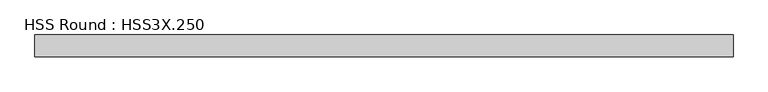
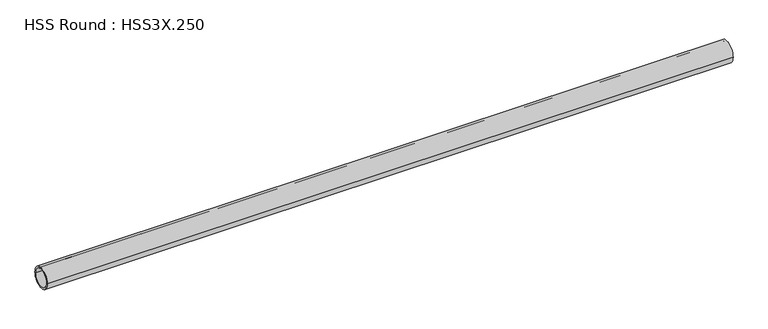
"""IFC4 building model written with IfcOpenShell, lengths in millimetres: member geometry, HSS Round : HSS3X.250."""

import ifcopenshell
import ifcopenshell.guid

model = None  # the IFC model being written
_history = None  # IfcOwnerHistory: only IFC2X3 demands one
_inside = {}  # id of a spatial element -> (the spatial element, [elements in it])
_under = {}  # id of a project, library or spatial element -> (it, [spatial elements below it])
_declared = {}  # id of a project -> (the project, [libraries it declares])
_typed = {}  # id of a type object -> (the type object, [elements of that type])
_made_of = {}  # id of a material, layer set ... -> (it, [elements and type objects made of it])


def new_model(schema):
    """Start an empty IFC model of exactly this schema.

    Asked for "IFC4X3", IfcOpenShell would pick the latest addendum, in which some entities
    have other attributes; the version numbers below select the first issue.
    IFC2X3 requires an IfcOwnerHistory on every rooted entity: one is made here for all.
    """
    global model, _history
    if schema == "IFC4X3":
        model = ifcopenshell.file(schema_version=(4, 3, 0, 0))
    else:
        model = ifcopenshell.file(schema=schema)
    _inside.clear()
    _under.clear()
    _declared.clear()
    _typed.clear()
    _made_of.clear()
    _history = None
    if model.schema == "IFC2X3":
        org = make("IfcOrganization", Name="unknown")
        user = make(
            "IfcPersonAndOrganization",
            ThePerson=make("IfcPerson", FamilyName="unknown"),
            TheOrganization=org,
        )
        app = make(
            "IfcApplication",
            ApplicationDeveloper=org,
            Version="unknown",
            ApplicationFullName="unknown",
            ApplicationIdentifier="unknown",
        )
        _history = make(
            "IfcOwnerHistory",
            OwningUser=user,
            OwningApplication=app,
            ChangeAction="ADDED",
            CreationDate=0,
        )
    return model


def make(cls, **values):
    """One entity of the class cls with the attributes given. An attribute that is None is left unset."""
    return model.create_entity(
        cls, **{name: value for name, value in values.items() if value is not None}
    )


def rooted(cls, **values):
    """An entity with a GlobalId (a new one), such as an element, a storey or a relation."""
    return make(cls, GlobalId=ifcopenshell.guid.new(), OwnerHistory=_history, **values)


def si_unit(unit_type, name, prefix=None):
    """IfcSIUnit, for example si_unit("LENGTHUNIT", "METRE", prefix="MILLI")."""
    return make("IfcSIUnit", UnitType=unit_type, Prefix=prefix, Name=name)


def assignment(units):
    """IfcUnitAssignment: the units of a project."""
    return None if units is None else make("IfcUnitAssignment", Units=units)


def point(xyz):
    """IfcCartesianPoint."""
    return None if xyz is None else make("IfcCartesianPoint", Coordinates=xyz)


def direction(xyz):
    """IfcDirection."""
    return None if xyz is None else make("IfcDirection", DirectionRatios=xyz)


def frame(location, z_axis=None, x_axis=None):
    """IfcAxis2Placement3D, a coordinate frame: its origin and axes. An axis left out is left unset."""
    return make(
        "IfcAxis2Placement3D",
        Location=point(location),
        Axis=direction(z_axis),
        RefDirection=direction(x_axis),
    )


def frame_2d(location, x_axis=None):
    """IfcAxis2Placement2D, a coordinate frame in the plane: its origin and x axis."""
    return make(
        "IfcAxis2Placement2D", Location=point(location), RefDirection=direction(x_axis)
    )


def origin():
    """The frame at (0, 0, 0) with its axes left unset."""
    return frame((0.0, 0.0, 0.0))


def origin_2d():
    """The frame at (0, 0) in the plane with its x axis left unset."""
    return frame_2d((0.0, 0.0))


def place(relative_to, where):
    """IfcLocalPlacement: puts the frame where relative to a parent placement (None: the world)."""
    return make(
        "IfcLocalPlacement", PlacementRelTo=relative_to, RelativePlacement=where
    )


def context(
    kind, dimensions, precision=None, world=None, true_north=None, identifier=None
):
    """IfcGeometricRepresentationContext, for example the 3D "Model" context."""
    return make(
        "IfcGeometricRepresentationContext",
        ContextIdentifier=identifier,
        ContextType=kind,
        CoordinateSpaceDimension=dimensions,
        Precision=precision,
        WorldCoordinateSystem=world,
        TrueNorth=true_north,
    )


def project(units=None, contexts=None):
    """IfcProject with its units and contexts."""
    return rooted(
        "IfcProject",
        Name="project",
        RepresentationContexts=contexts,
        UnitsInContext=assignment(units),
    )


def spatial(cls, under=None, at=None, **own):
    """A site, building, storey or space (cls), placed at a placement, below another one or the project."""
    s = rooted(cls, ObjectPlacement=at, **own)
    if under is not None:
        _under.setdefault(under.id(), (under, []))[1].append(s)
    return s


def circle_curve(where, radius):
    """IfcCircle in the frame where."""
    return make("IfcCircle", Position=where, Radius=radius)


def trimmed(basis, trim1, trim2, sense, master):
    """IfcTrimmedCurve: the piece of a basis curve between two trims."""
    return make(
        "IfcTrimmedCurve",
        BasisCurve=basis,
        Trim1=trim1,
        Trim2=trim2,
        SenseAgreement=sense,
        MasterRepresentation=master,
    )


def segment(curve, same_sense, transition):
    """IfcCompositeCurveSegment."""
    return make(
        "IfcCompositeCurveSegment",
        Transition=transition,
        SameSense=same_sense,
        ParentCurve=curve,
    )


def composite_curve(segments, self_intersect=None):
    """IfcCompositeCurve: segments joined end to end."""
    return make("IfcCompositeCurve", Segments=segments, SelfIntersect=self_intersect)


def outline(outer, holes=None, kind="AREA"):
    """IfcArbitraryClosedProfileDef: a profile drawn as a closed curve; with holes, ...WithVoids."""
    if holes is None:
        return make("IfcArbitraryClosedProfileDef", ProfileType=kind, OuterCurve=outer)
    return make(
        "IfcArbitraryProfileDefWithVoids",
        ProfileType=kind,
        OuterCurve=outer,
        InnerCurves=holes,
    )


def extrude(swept, where, along, depth):
    """IfcExtrudedAreaSolid: the profile swept, set in the frame where, extruded along a direction by depth."""
    return make(
        "IfcExtrudedAreaSolid",
        SweptArea=swept,
        Position=where,
        ExtrudedDirection=direction(along),
        Depth=depth,
    )


def shape(context_of_items, identifier, shape_type, items):
    """IfcShapeRepresentation: the items that make up one representation, for example the "Body"."""
    return make(
        "IfcShapeRepresentation",
        ContextOfItems=context_of_items,
        RepresentationIdentifier=identifier,
        RepresentationType=shape_type,
        Items=items,
    )


def source(mapping_origin, context_of_items, identifier, shape_type, items):
    """IfcRepresentationMap: a shape defined once, which mapped items show again and again."""
    return make(
        "IfcRepresentationMap",
        MappingOrigin=mapping_origin,
        MappedRepresentation=shape(context_of_items, identifier, shape_type, items),
    )


def transform(
    local_origin,
    x_axis=None,
    y_axis=None,
    z_axis=None,
    scale=None,
    scale2=None,
    scale3=None,
    uniform=True,
):
    """IfcCartesianTransformationOperator3D, or its non-uniform kind. x_axis, y_axis, z_axis: its Axis1, 2, 3."""
    if uniform:
        return make(
            "IfcCartesianTransformationOperator3D",
            Axis1=direction(x_axis),
            Axis2=direction(y_axis),
            LocalOrigin=point(local_origin),
            Scale=scale,
            Axis3=direction(z_axis),
        )
    return make(
        "IfcCartesianTransformationOperator3DnonUniform",
        Axis1=direction(x_axis),
        Axis2=direction(y_axis),
        LocalOrigin=point(local_origin),
        Scale=scale,
        Axis3=direction(z_axis),
        Scale2=scale2,
        Scale3=scale3,
    )


def mapped(mapping_source, mapping_target):
    """IfcMappedItem: shows the shape of a source again, moved by a transform."""
    return make(
        "IfcMappedItem", MappingSource=mapping_source, MappingTarget=mapping_target
    )


def made_of(thing, what):
    """Note that an element or type object is made of a material, layer set ...; save() writes the relation."""
    if what is not None:
        _made_of.setdefault(what.id(), (what, []))[1].append(thing)
    return thing


def element(
    cls,
    number,
    at=None,
    inside=None,
    cuts=None,
    type_object=None,
    material=None,
    context=None,
    identifier="Body",
    shape_type=None,
    held_by="IfcProductDefinitionShape",
    body=None,
    shapes=None,
    **own,
):
    """One element of the class cls, such as IfcWall. Its Tag is "e" and its number.

    at: its placement. inside: the storey or other place that contains it. cuts: it is an
    opening in that element (IfcRelVoidsElement). A single representation is given by context,
    identifier, shape_type and body (its items); several are given by shapes. held_by: the class
    of the entity that holds the representations. save() writes the other relations.
    """
    e = rooted(cls, Tag="e%d" % number, ObjectPlacement=at, **own)
    if body is not None:
        shapes = [shape(context, identifier, shape_type, body)]
    if shapes is not None:
        e.Representation = make(held_by, Representations=shapes)
    if inside is not None:
        _inside.setdefault(inside.id(), (inside, []))[1].append(e)
    if cuts is not None:
        rooted(
            "IfcRelVoidsElement", RelatingBuildingElement=cuts, RelatedOpeningElement=e
        )
    if type_object is not None:
        _typed.setdefault(type_object.id(), (type_object, []))[1].append(e)
    return made_of(e, material)


def aggregate(whole, parts):
    """IfcRelAggregates: a whole, such as a stair, and the parts it consists of."""
    return rooted("IfcRelAggregates", RelatingObject=whole, RelatedObjects=parts)


def save(model, path):
    """Write the relations noted so far, then the file.

    IfcRelAggregates (storeys below a building ...), IfcRelContainedInSpatialStructure (elements
    in a storey), IfcRelDefinesByType, IfcRelAssociatesMaterial and IfcRelDeclares: one each for
    every whole, place, type object, material and project.
    """
    for whole, parts in _under.values():
        aggregate(whole, parts)
    for where, things in _inside.values():
        rooted(
            "IfcRelContainedInSpatialStructure",
            RelatedElements=things,
            RelatingStructure=where,
        )
    for kind, things in _typed.values():
        rooted("IfcRelDefinesByType", RelatedObjects=things, RelatingType=kind)
    for what, things in _made_of.values():
        rooted("IfcRelAssociatesMaterial", RelatedObjects=things, RelatingMaterial=what)
    for by, libraries in _declared.values():
        rooted("IfcRelDeclares", RelatingContext=by, RelatedDefinitions=libraries)
    model.write(path)


def hss_round_hss3x_250_60f974ac(model_context):
    return source(origin(), model_context, "Body", "SweptSolid", [
        extrude(outline(composite_curve([segment(trimmed(circle_curve(origin_2d(), 38.1), [point((-38.1, 0.0))], [point((38.1, 0.0))], False, "CARTESIAN"), True, "CONTINUOUS"), segment(trimmed(circle_curve(origin_2d(), 38.1), [point((38.1, 0.0))], [point((-38.1, 0.0))], False, "CARTESIAN"), True, "CONTINUOUS")], self_intersect=False), holes=[composite_curve([segment(trimmed(circle_curve(origin_2d(), 31.75), [point((31.75, 0.0))], [point((-31.75, 0.0))], True, "CARTESIAN"), True, "CONTINUOUS"), segment(trimmed(circle_curve(origin_2d(), 31.75), [point((-31.75, 0.0))], [point((31.75, 0.0))], True, "CARTESIAN"), True, "CONTINUOUS")], self_intersect=False)]), frame((-1193.8066524, 0.0, 0.0), z_axis=(1.0, 0.0, 0.0), x_axis=(0.0, 1.0, 0.0)), (0.0, 0.0, 1.0), 2453.0355486),
    ])


if __name__ == "__main__":
    model = new_model("IFC4")
    model_context = context("Model", 3, world=origin())
    ifc_project = project(units=[si_unit("LENGTHUNIT", "METRE", prefix="MILLI")], contexts=[model_context])
    site = spatial("IfcSite", under=ifc_project)
    building = spatial("IfcBuilding", under=site)
    placement = place(None, origin())
    hss_round_hss3x_250_shape = hss_round_hss3x_250_60f974ac(model_context)
    element("IfcMember", 1, ObjectType="HSS Round : HSS3X.250", at=placement, inside=building, context=model_context, shape_type="MappedRepresentation", body=[
        mapped(hss_round_hss3x_250_shape, transform((0.0, 0.0, 0.0), x_axis=(1.0, 0.0, 0.0), y_axis=(0.0, 1.0, 0.0), z_axis=(0.0, 0.0, 1.0))),
    ])
    save(model, "model.ifc")
